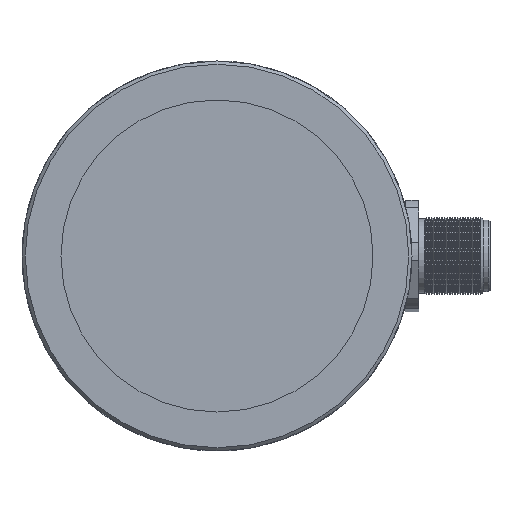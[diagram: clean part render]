
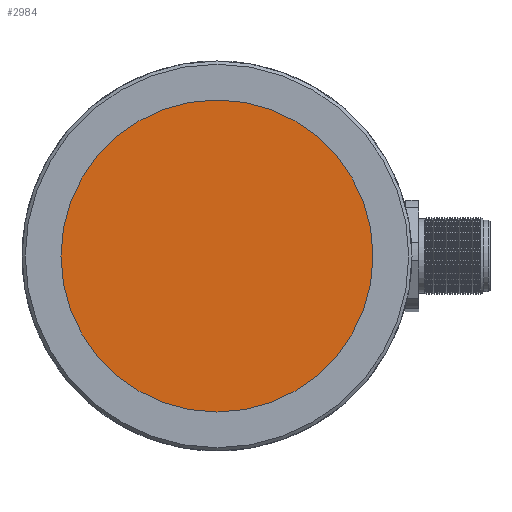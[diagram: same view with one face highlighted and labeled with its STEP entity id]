
A CAD part, left-side view. The second image highlights one B-rep face of the part: STEP entity #2984.
In plain terms, the highlighted planar face has unit normal (-1, 0, 0).
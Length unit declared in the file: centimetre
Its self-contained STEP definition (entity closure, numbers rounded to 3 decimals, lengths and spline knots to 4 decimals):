
#651=PLANE('',#3222);
#741=CIRCLE('',#3221,2.4);
#939=EDGE_CURVE('',#2395,#2395,#741,.T.);
#1357=ORIENTED_EDGE('',*,*,#939,.T.);
#2044=EDGE_LOOP('',(#1357));
#2395=VERTEX_POINT('',#3685);
#2656=FACE_BOUND('',#2044,.T.);
#2984=ADVANCED_FACE('',(#2656),#651,.F.);
#3221=AXIS2_PLACEMENT_3D('',#3684,#4730,#4731);
#3222=AXIS2_PLACEMENT_3D('',#3686,#4732,$);
#3684=CARTESIAN_POINT('',(-2.3,0.,0.));
#3685=CARTESIAN_POINT('',(-2.3,0.,-2.4));
#3686=CARTESIAN_POINT('',(-2.3,0.,0.));
#4730=DIRECTION('',(-1.,0.,0.));
#4731=DIRECTION('',(0.,0.,-2.4));
#4732=DIRECTION('',(1.,0.,0.));
